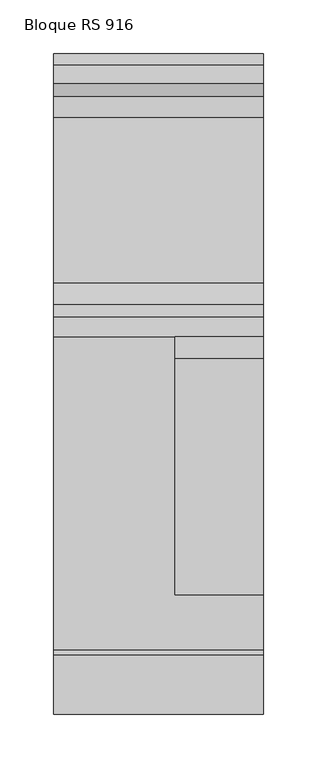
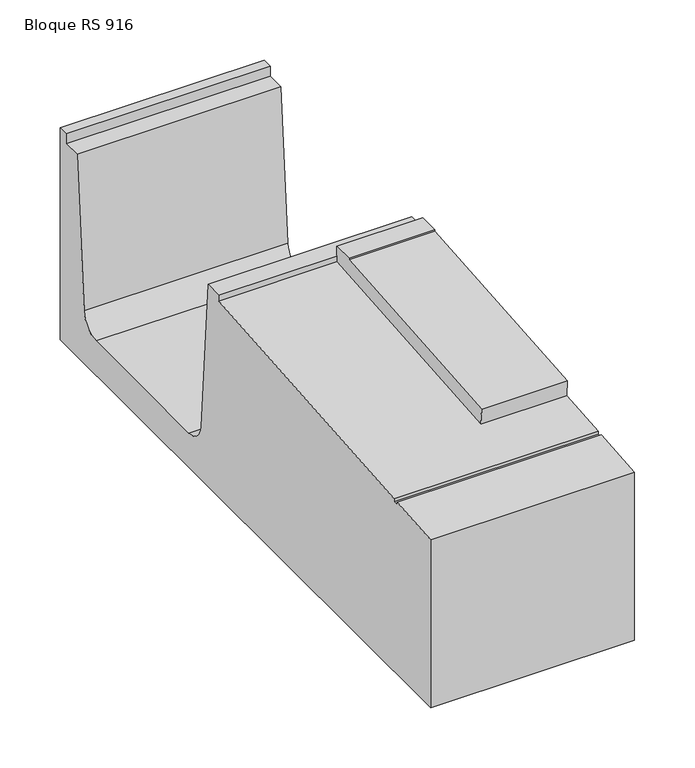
"""IFC4 building model written with IfcOpenShell, lengths in millimetres: proxy geometry, ROSA GRES_RS 916 : Bloque RS 916."""

from ifc_helpers import new_model, si_unit, frame, origin, place, context, project, spatial, polyline, circle_curve, source, transform, mapped, element, save
from ifc_brep_helpers import plane_surface, revolved_surface, advanced_brep


def bloque_rs_916_1ec51204(model_context):
    return source(origin(), model_context, "Body", "AdvancedBrep", [
        advanced_brep(
        [(0.0, 12.84, 171.9333029), (0.0, 67.84, 176.4100471), (0.0, 67.84, 173.8170239), (0.0, 72.84, 173.8170239), (0.0, 72.84, 176.8170239), (0.0, 363.84, 200.5030704), (0.0, 363.84, 206.3460936), (0.0, 381.84, 206.3460936), (0.0, 393.5522462, 55.2086635), (0.0, 413.4924621, 36.7539108), (0.0, 567.1875379, 36.7539108), (0.0, 587.1277538, 55.2086635), (0.0, 598.84, 206.3460936), (0.0, 616.84, 206.3460936), (0.0, 616.84, 216.3460936), (0.0, 626.84, 216.3460936), (0.0, 626.84, 1.7539108), (0.0, 12.84, 1.7539108), (195.0, 12.84, 171.9333029), (195.0, 12.84, 1.7539108), (195.0, 626.84, 1.7539108), (195.0, 626.84, 216.3460936), (195.0, 616.84, 216.3460936), (195.0, 616.84, 206.3460936), (195.0, 598.84, 206.3460936), (195.0, 587.1277538, 55.2086635), (195.0, 567.1875379, 36.7539108), (195.0, 413.4924621, 36.7539108), (195.0, 393.5522462, 55.2086635), (195.0, 381.84, 206.3460936), (195.0, 363.84, 206.3460936), (195.0, 363.84, 216.3460936), (195.0, 343.84, 216.3460936), (195.0, 343.84, 214.7181867), (195.0, 123.84, 196.8112099), (195.0, 125.1210611, 181.0724591), (195.0, 72.84, 176.8170239), (195.0, 72.84, 173.8170239), (195.0, 67.84, 173.8170239), (195.0, 67.84, 176.4100471), (113.0, 125.1210611, 181.0724591), (113.0, 363.84, 200.5030704), (113.0, 363.84, 206.3460936), (113.0, 123.84, 196.8112099), (113.0, 343.84, 214.7181867), (113.0, 343.84, 216.3460936), (113.0, 363.84, 216.3460936)],
        [
            (0, 1),
            (1, 2),
            (2, 3),
            (3, 4),
            (4, 5),
            (5, 6),
            (6, 7),
            (7, 8),
            (8, 9, circle_curve(frame((0.0, 413.4924621, 56.7539108), z_axis=(1.0, 0.0, 0.0), x_axis=(0.0, 1.0, 0.0)), 20.0)),
            (9, 10),
            (10, 11, circle_curve(frame((0.0, 567.1875379, 56.7539108), z_axis=(1.0, 0.0, 0.0), x_axis=(0.0, 1.0, 0.0)), 20.0)),
            (11, 12),
            (12, 13),
            (13, 14),
            (14, 15),
            (15, 16),
            (16, 17),
            (17, 0),
            (18, 19),
            (19, 20),
            (20, 21),
            (21, 22),
            (22, 23),
            (23, 24),
            (24, 25),
            (25, 26, circle_curve(frame((195.0, 567.1875379, 56.7539108), z_axis=(-1.0, 0.0, 0.0), x_axis=(0.0, 1.0, 0.0)), 20.0)),
            (26, 27),
            (27, 28, circle_curve(frame((195.0, 413.4924621, 56.7539108), z_axis=(-1.0, 0.0, 0.0), x_axis=(0.0, 1.0, 0.0)), 20.0)),
            (28, 29),
            (29, 30),
            (30, 31),
            (31, 32),
            (32, 33),
            (33, 34),
            (34, 35),
            (35, 36),
            (36, 37),
            (37, 38),
            (38, 39),
            (39, 18),
            (0, 18),
            (39, 1),
            (38, 2),
            (37, 3),
            (36, 4),
            (35, 40),
            (40, 41),
            (41, 5),
            (41, 42),
            (42, 6),
            (42, 30),
            (29, 7),
            (28, 8),
            (27, 9),
            (26, 10),
            (25, 11),
            (24, 12),
            (23, 13),
            (22, 14),
            (21, 15),
            (20, 16),
            (19, 17),
            (43, 44),
            (44, 45),
            (45, 46),
            (46, 42),
            (40, 43),
            (43, 34),
            (33, 44),
            (32, 45),
            (31, 46),
        ],
        [
            plane_surface(frame((0.0, 0.0, 0.0), z_axis=(-1.0, 0.0, 0.0), x_axis=(0.0, 0.0, 1.0))),
            plane_surface(frame((195.0, 0.0, 0.0), z_axis=(1.0, 0.0, 0.0), x_axis=(0.0, 0.0, 1.0))),
            plane_surface(frame((0.0, 12.84, 171.9333029), z_axis=(0.0, -0.0811270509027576, 0.9967037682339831), x_axis=(1.0, 0.0, 0.0))),
            plane_surface(frame((0.0, 67.84, 176.4100471), z_axis=(0.0, 1.0, 0.0), x_axis=(1.0, 0.0, 0.0))),
            plane_surface(frame((0.0, 67.84, 173.8170239), z_axis=(0.0, 0.0, 1.0), x_axis=(1.0, 0.0, 0.0))),
            plane_surface(frame((0.0, 72.84, 173.8170239), z_axis=(0.0, -1.0, 0.0), x_axis=(1.0, 0.0, 0.0))),
            plane_surface(frame((0.0, 72.84, 176.8170239), z_axis=(0.0, -0.08112705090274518, 0.9967037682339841), x_axis=(1.0, 0.0, 0.0))),
            plane_surface(frame((0.0, 363.84, 200.5030704), z_axis=(0.0, -1.0, 0.0), x_axis=(1.0, 0.0, 0.0))),
            plane_surface(frame((0.0, 363.84, 206.3460936), z_axis=(0.0, 0.0, 1.0), x_axis=(1.0, 0.0, 0.0))),
            plane_surface(frame((0.0, 381.84, 206.3460936), z_axis=(0.0, 0.9970107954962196, 0.07726236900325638), x_axis=(1.0, 0.0, 0.0))),
            revolved_surface(polyline([(195.0, 433.4924621, 56.7539108), (0.0, 433.4924621, 56.7539108)]), (0.0, 413.4924621, 56.7539108), (1.0, 0.0, 0.0)),
            plane_surface(frame((0.0, 413.4924621, 36.7539108), z_axis=(0.0, 0.0, 1.0), x_axis=(1.0, 0.0, 0.0))),
            revolved_surface(polyline([(195.0, 587.1875379, 56.7539108), (0.0, 587.1875379, 56.7539108)]), (0.0, 567.1875379, 56.7539108), (1.0, 0.0, 0.0)),
            plane_surface(frame((0.0, 587.1277538, 55.2086635), z_axis=(0.0, -0.99701079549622, 0.07726236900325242), x_axis=(1.0, 0.0, 0.0))),
            plane_surface(frame((0.0, 598.84, 206.3460936), z_axis=(0.0, 0.0, 1.0), x_axis=(1.0, 0.0, 0.0))),
            plane_surface(frame((0.0, 616.84, 206.3460936), z_axis=(0.0, -1.0, 0.0), x_axis=(1.0, 0.0, 0.0))),
            plane_surface(frame((0.0, 616.84, 216.3460936), z_axis=(0.0, 0.0, 1.0), x_axis=(1.0, 0.0, 0.0))),
            plane_surface(frame((0.0, 626.84, 216.3460936), z_axis=(0.0, 1.0, 0.0), x_axis=(1.0, 0.0, 0.0))),
            plane_surface(frame((0.0, 626.84, 1.7539108), z_axis=(0.0, 0.0, -1.0), x_axis=(1.0, 0.0, 0.0))),
            plane_surface(frame((0.0, 12.84, 1.7539108), z_axis=(0.0, -1.0, 0.0), x_axis=(1.0, 0.0, 0.0))),
            plane_surface(frame((113.0, 0.0, 0.0), z_axis=(-1.0, 0.0, 0.0), x_axis=(0.0, 0.0, 1.0))),
            plane_surface(frame((113.0, 123.84, 196.8112099), z_axis=(0.0, -0.08112705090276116, 0.9967037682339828), x_axis=(1.0, 0.0, 0.0))),
            plane_surface(frame((113.0, 343.84, 214.7181867), z_axis=(0.0, -1.0, 0.0), x_axis=(1.0, 0.0, 0.0))),
            plane_surface(frame((113.0, 343.84, 216.3460936), z_axis=(0.0, 0.0, 1.0), x_axis=(1.0, 0.0, 0.0))),
            plane_surface(frame((113.0, 363.84, 216.3460936), z_axis=(0.0, 1.0, 0.0), x_axis=(1.0, 0.0, 0.0))),
            plane_surface(frame((113.0, 125.1210611, 181.0724591), z_axis=(0.0, -0.9967037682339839, -0.08112705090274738), x_axis=(1.0, 0.0, 0.0))),
        ],
        [
            (0, [[1, 2, 3, 4, 5, 6, 7, 8, 9, 10, 11, 12, 13, 14, 15, 16, 17, 18]]),
            (1, [[19, 20, 21, 22, 23, 24, 25, 26, 27, 28, 29, 30, 31, 32, 33, 34, 35, 36, 37, 38, 39, 40]]),
            (2, [[-1, 41, -40, 42]]),
            (3, [[-2, -42, -39, 43]]),
            (4, [[-3, -43, -38, 44]]),
            (5, [[-4, -44, -37, 45]]),
            (6, [[-5, -45, -36, 46, 47, 48]]),
            (7, [[-6, -48, 49, 50]]),
            (8, [[-7, -50, 51, -30, 52]]),
            (9, [[-8, -52, -29, 53]]),
            (10, [[-9, -53, -28, 54]]),
            (11, [[-10, -54, -27, 55]]),
            (12, [[-11, -55, -26, 56]]),
            (13, [[-12, -56, -25, 57]]),
            (14, [[-13, -57, -24, 58]]),
            (15, [[-14, -58, -23, 59]]),
            (16, [[-15, -59, -22, 60]]),
            (17, [[-16, -60, -21, 61]]),
            (18, [[-17, -61, -20, 62]]),
            (19, [[-18, -62, -19, -41]]),
            (20, [[63, 64, 65, 66, -49, -47, 67]]),
            (21, [[-63, 68, -34, 69]]),
            (22, [[-64, -69, -33, 70]]),
            (23, [[-65, -70, -32, 71]]),
            (24, [[-71, -31, -51, -66]]),
            (25, [[-67, -46, -35, -68]]),
        ],
    ),
    ])


if __name__ == "__main__":
    model = new_model("IFC4")
    model_context = context("Model", 3, world=origin())
    ifc_project = project(units=[si_unit("LENGTHUNIT", "METRE", prefix="MILLI")], contexts=[model_context])
    site = spatial("IfcSite", under=ifc_project)
    building = spatial("IfcBuilding", under=site)
    placement = place(None, origin())
    bloque_rs_916_shape = bloque_rs_916_1ec51204(model_context)
    element("IfcBuildingElementProxy", 1, Name="ROSA GRES_RS 916 : Bloque RS 916", ObjectType="ROSA GRES_RS 916 : Bloque RS 916", at=placement, inside=building, context=model_context, shape_type="MappedRepresentation", body=[
        mapped(bloque_rs_916_shape, transform((0.0, 0.0, 0.0), x_axis=(1.0, 0.0, 0.0), y_axis=(0.0, 1.0, 0.0), z_axis=(0.0, 0.0, 1.0))),
    ])
    save(model, "model.ifc")
